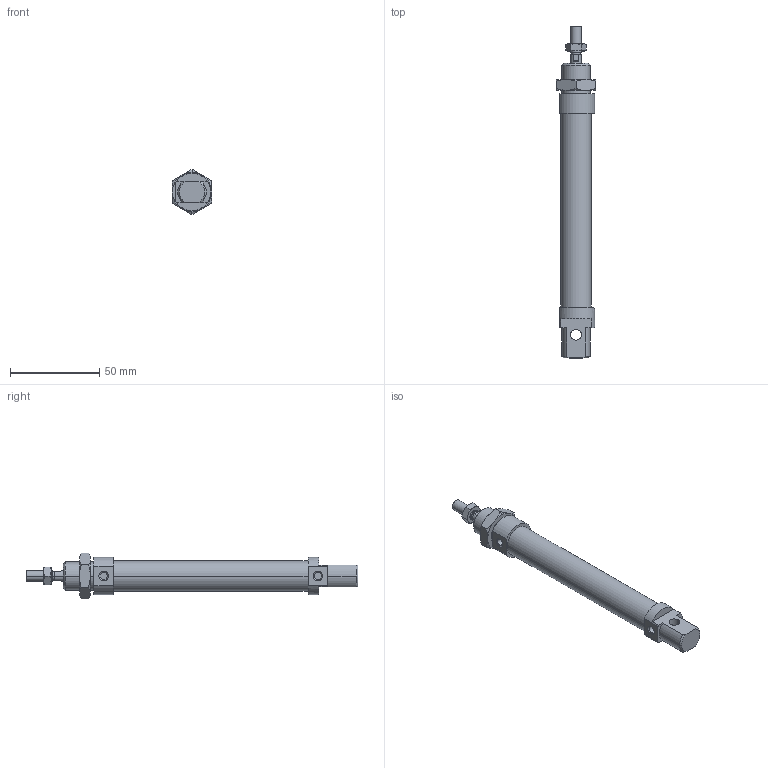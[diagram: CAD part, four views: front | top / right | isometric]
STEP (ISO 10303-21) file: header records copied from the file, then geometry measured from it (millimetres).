
FILE_DESCRIPTION((''),'2;1');
FILE_NAME('I:\DOC-EDP\Lib-3d\1200\CILINDRI\1280\1280_16_0075.stp','2003-04-07T14:59:41',('maffial1'),(''),'Autodesk Inventor (R) 6.0','Autodesk Inventor (R) 6.0','');
FILE_SCHEMA(('AUTOMOTIVE_DESIGN { 1 0 10303 214 1 1 1 1 }'));
Length unit declared in the file: millimetre
Products named in the file (5): 1280_16_0075; S1280_16_75; 1200_16_05; 1200_16_06; C1280_16_75
Assembly tree (4 placements, depth 2):
  1280_16_0075
    S1280_16_75
    1200_16_05
    1200_16_06
    C1280_16_75
Bounding box: 22 x 186 x 25.4 mm (x, y, z)
Volume: 40287.3 mm3; surface area: 15926.9 mm2
Topology: 4 solids, 4 shells, 121 faces, 268 edges, 162 vertices
Faces by surface type: cone 40, plane 39, cylinder 22, bspline 20
Entity records: 3653 total; most frequent: CARTESIAN_POINT 976, DIRECTION 556, ORIENTED_EDGE 536, EDGE_CURVE 268, AXIS2_PLACEMENT_3D 230, VERTEX_POINT 162, EDGE_LOOP 134, FACE_OUTER_BOUND 121
